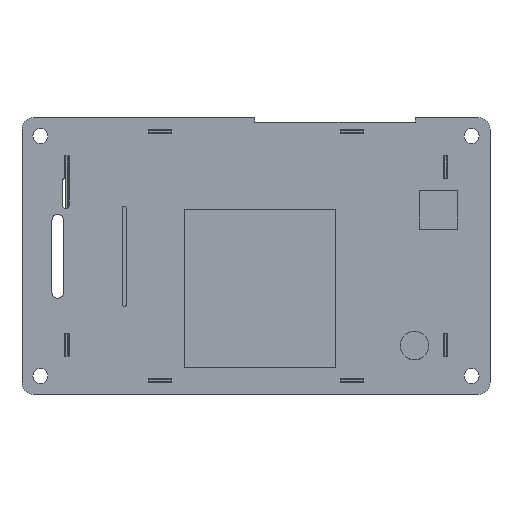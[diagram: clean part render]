
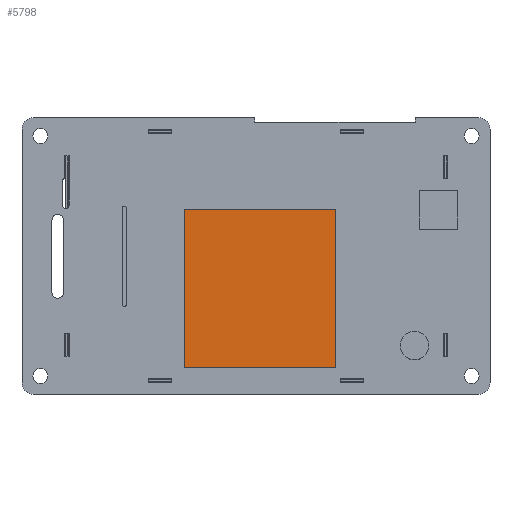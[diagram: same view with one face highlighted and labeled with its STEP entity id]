
A CAD part, top view. The second image highlights one B-rep face of the part: STEP entity #5798.
In plain terms, the highlighted planar face has unit normal (0, 0, 1).
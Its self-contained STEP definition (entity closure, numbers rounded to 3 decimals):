
#2109=DIRECTION('',(0.,-1.,0.));
#2110=VECTOR('',#2109,35.);
#2111=CARTESIAN_POINT('',(624.277,323.152,5.2));
#2112=LINE('',#2111,#2110);
#2117=DIRECTION('',(-1.,0.,0.));
#2118=VECTOR('',#2117,33.4);
#2119=CARTESIAN_POINT('',(657.677,323.152,5.2));
#2120=LINE('',#2119,#2118);
#2125=DIRECTION('',(0.,1.,0.));
#2126=VECTOR('',#2125,35.);
#2127=CARTESIAN_POINT('',(657.677,288.152,5.2));
#2128=LINE('',#2127,#2126);
#2133=DIRECTION('',(1.,0.,0.));
#2134=VECTOR('',#2133,33.4);
#2135=CARTESIAN_POINT('',(624.277,288.152,5.2));
#2136=LINE('',#2135,#2134);
#2847=CARTESIAN_POINT('',(624.277,323.152,5.2));
#2848=VERTEX_POINT('',#2847);
#2849=CARTESIAN_POINT('',(624.277,288.152,5.2));
#2850=VERTEX_POINT('',#2849);
#2851=CARTESIAN_POINT('',(657.677,323.152,5.2));
#2852=VERTEX_POINT('',#2851);
#2853=CARTESIAN_POINT('',(657.677,288.152,5.2));
#2854=VERTEX_POINT('',#2853);
#5787=CARTESIAN_POINT('',(0.,0.,5.2));
#5788=DIRECTION('',(0.,0.,1.));
#5789=DIRECTION('',(1.,0.,0.));
#5790=AXIS2_PLACEMENT_3D('',#5787,#5788,#5789);
#5791=PLANE('',#5790);
#5792=ORIENTED_EDGE('',*,*,#5739,.F.);
#5793=ORIENTED_EDGE('',*,*,#5754,.F.);
#5794=ORIENTED_EDGE('',*,*,#5768,.F.);
#5795=ORIENTED_EDGE('',*,*,#5781,.F.);
#5796=EDGE_LOOP('',(#5792,#5793,#5794,#5795));
#5797=FACE_OUTER_BOUND('',#5796,.F.);
#5739=EDGE_CURVE('',#2848,#2850,#2112,.T.);
#5754=EDGE_CURVE('',#2852,#2848,#2120,.T.);
#5768=EDGE_CURVE('',#2854,#2852,#2128,.T.);
#5781=EDGE_CURVE('',#2850,#2854,#2136,.T.);
#5798=ADVANCED_FACE('',(#5797),#5791,.T.);
